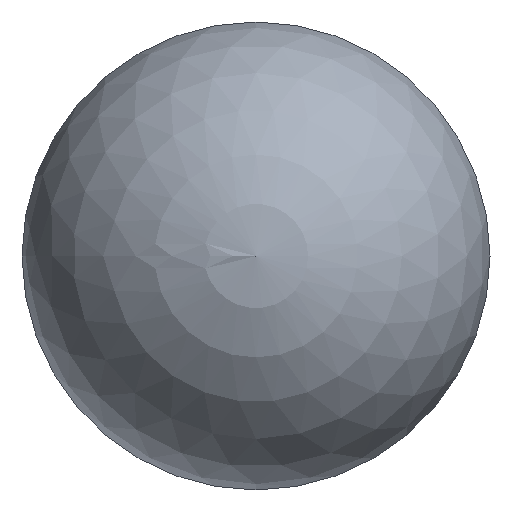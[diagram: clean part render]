
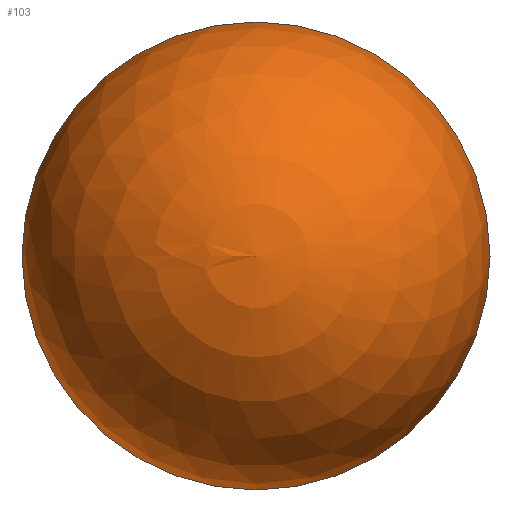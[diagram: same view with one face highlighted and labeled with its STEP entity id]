
A CAD part, left-side view. The second image highlights one B-rep face of the part: STEP entity #103.
In plain terms, the highlighted spherical face has radius 5 mm.
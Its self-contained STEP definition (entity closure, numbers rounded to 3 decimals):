
#101=SPHERICAL_SURFACE('',#134,5.);
#103=ADVANCED_FACE('',(#108),#101,.T.);
#108=FACE_OUTER_BOUND('',#110,.T.);
#110=EDGE_LOOP('',(#116));
#116=ORIENTED_EDGE('',*,*,#125,.T.);
#122=VERTEX_POINT('',#159);
#125=EDGE_CURVE('',#122,#122,#128,.T.);
#128=CIRCLE('',#133,5.);
#133=AXIS2_PLACEMENT_3D('',#158,#144,#145);
#134=AXIS2_PLACEMENT_3D('',#160,#146,#147);
#144=DIRECTION('',(-1.,0.,0.));
#145=DIRECTION('',(0.,-1.,0.));
#146=DIRECTION('',(-1.,0.,0.));
#147=DIRECTION('',(0.,1.,0.));
#158=CARTESIAN_POINT('',(7846.21,6133.599,0.));
#159=CARTESIAN_POINT('',(7846.21,6128.599,0.));
#160=CARTESIAN_POINT('',(7846.21,6133.599,0.));
